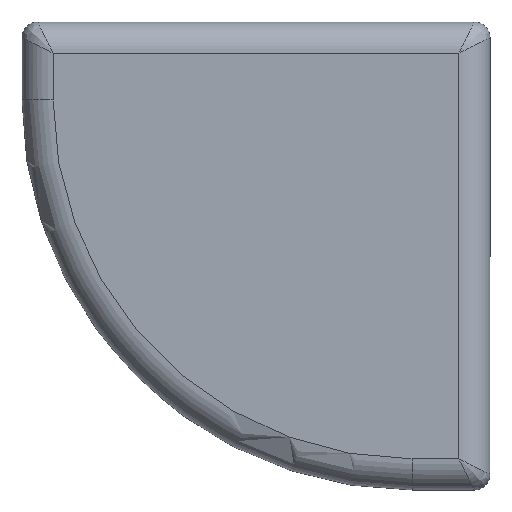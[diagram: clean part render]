
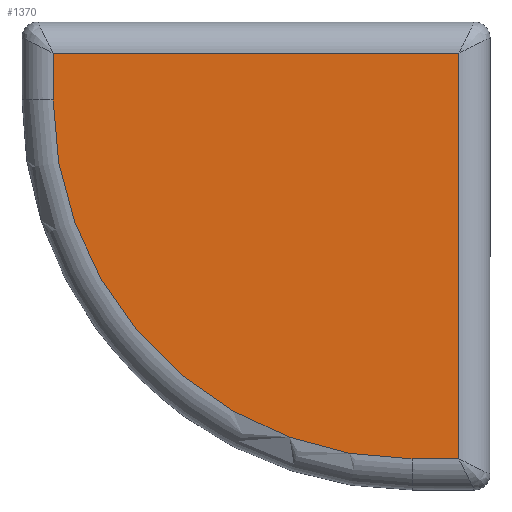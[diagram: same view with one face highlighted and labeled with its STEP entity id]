
A CAD part, front view. The second image highlights one B-rep face of the part: STEP entity #1370.
In plain terms, the highlighted planar face has unit normal (0, -1, 0).
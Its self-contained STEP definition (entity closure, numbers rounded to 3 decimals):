
#40 = DIRECTION ( 'NONE',  ( 0., 1., 0. ) ) ;
#45 = VERTEX_POINT ( 'NONE', #1196 ) ;
#69 = CARTESIAN_POINT ( 'NONE',  ( 2.768, 0., -18.718 ) ) ;
#135 = EDGE_LOOP ( 'NONE', ( #218, #1339, #1276, #1481, #1242 ) ) ;
#218 = ORIENTED_EDGE ( 'NONE', *, *, #647, .T. ) ;
#220 = VERTEX_POINT ( 'NONE', #290 ) ;
#267 = CIRCLE ( 'NONE', #1597, 23. ) ;
#272 = CARTESIAN_POINT ( 'NONE',  ( -20.232, 0., 0. ) ) ;
#290 = CARTESIAN_POINT ( 'NONE',  ( 5.768, 0., 7.282 ) ) ;
#437 = CARTESIAN_POINT ( 'NONE',  ( 0., 0., 0. ) ) ;
#454 = EDGE_CURVE ( 'NONE', #1382, #1203, #1585, .T. ) ;
#483 = CARTESIAN_POINT ( 'NONE',  ( -21.232, 0., 7.282 ) ) ;
#492 = CARTESIAN_POINT ( 'NONE',  ( -20.232, 0., 4.282 ) ) ;
#566 = AXIS2_PLACEMENT_3D ( 'NONE', #437, #40, #976 ) ;
#624 = LINE ( 'NONE', #483, #1291 ) ;
#647 = EDGE_CURVE ( 'NONE', #1203, #1506, #267, .T. ) ;
#724 = DIRECTION ( 'NONE',  ( 0., -1., 0. ) ) ;
#731 = VECTOR ( 'NONE', #1310, 1000. ) ;
#873 = DIRECTION ( 'NONE',  ( 0., 0., 1. ) ) ;
#969 = VECTOR ( 'NONE', #1076, 1000. ) ;
#976 = DIRECTION ( 'NONE',  ( 0., 0., 1. ) ) ;
#982 = CARTESIAN_POINT ( 'NONE',  ( -20.232, 0., 7.282 ) ) ;
#1076 = DIRECTION ( 'NONE',  ( 0., 0., -1. ) ) ;
#1083 = LINE ( 'NONE', #1564, #731 ) ;
#1115 = EDGE_CURVE ( 'NONE', #45, #220, #1293, .T. ) ;
#1196 = CARTESIAN_POINT ( 'NONE',  ( 5.768, 0., -18.718 ) ) ;
#1203 = VERTEX_POINT ( 'NONE', #492 ) ;
#1242 = ORIENTED_EDGE ( 'NONE', *, *, #454, .T. ) ;
#1271 = EDGE_CURVE ( 'NONE', #1506, #45, #1083, .T. ) ;
#1275 = CARTESIAN_POINT ( 'NONE',  ( 5.768, 0., 8.282 ) ) ;
#1276 = ORIENTED_EDGE ( 'NONE', *, *, #1115, .T. ) ;
#1291 = VECTOR ( 'NONE', #1414, 1000. ) ;
#1293 = LINE ( 'NONE', #1275, #1334 ) ;
#1310 = DIRECTION ( 'NONE',  ( 1., 0., 0. ) ) ;
#1312 = FACE_OUTER_BOUND ( 'NONE', #135, .T. ) ;
#1334 = VECTOR ( 'NONE', #873, 1000. ) ;
#1339 = ORIENTED_EDGE ( 'NONE', *, *, #1271, .T. ) ;
#1370 = ADVANCED_FACE ( 'NONE', ( #1312 ), #1495, .F. ) ;
#1382 = VERTEX_POINT ( 'NONE', #982 ) ;
#1414 = DIRECTION ( 'NONE',  ( -1., 0., 0. ) ) ;
#1481 = ORIENTED_EDGE ( 'NONE', *, *, #1640, .T. ) ;
#1495 = PLANE ( 'NONE',  #566 ) ;
#1506 = VERTEX_POINT ( 'NONE', #69 ) ;
#1509 = CARTESIAN_POINT ( 'NONE',  ( 2.768, 0., 4.282 ) ) ;
#1564 = CARTESIAN_POINT ( 'NONE',  ( 6.768, 0., -18.718 ) ) ;
#1585 = LINE ( 'NONE', #272, #969 ) ;
#1597 = AXIS2_PLACEMENT_3D ( 'NONE', #1509, #724, #1644 ) ;
#1640 = EDGE_CURVE ( 'NONE', #220, #1382, #624, .T. ) ;
#1644 = DIRECTION ( 'NONE',  ( 0., 0., 1. ) ) ;
